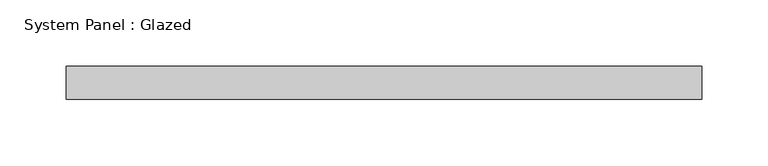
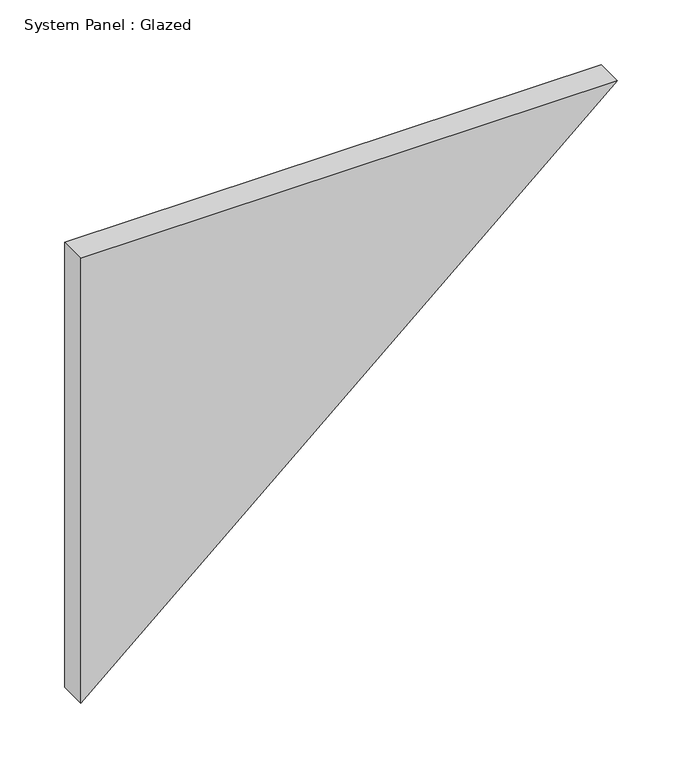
"""IFC4 building model written with IfcOpenShell, lengths in millimetres: plate geometry, System Panel : Glazed."""

from ifc_helpers import new_model, si_unit, frame, origin, place, context, project, spatial, polyline, outline, extrude, source, transform, mapped, element, save


def system_panel_glazed_cdcbd9d5(model_context):
    return source(origin(), model_context, "Body", "SweptSolid", [
        extrude(outline(polyline([(420.7807261, -239.9641856), (0.0, -239.9641856), (420.7807261, 239.9641856), (420.7807261, -239.9641856)])), frame((0.0, 24.5, 0.0), z_axis=(0.0, 1.0, 0.0), x_axis=(0.0, 0.0, 1.0)), (0.0, 0.0, 1.0), 25.0),
    ])


if __name__ == "__main__":
    model = new_model("IFC4")
    model_context = context("Model", 3, world=origin())
    ifc_project = project(units=[si_unit("LENGTHUNIT", "METRE", prefix="MILLI")], contexts=[model_context])
    site = spatial("IfcSite", under=ifc_project)
    building = spatial("IfcBuilding", under=site)
    placement = place(None, origin())
    system_panel_glazed_shape = system_panel_glazed_cdcbd9d5(model_context)
    element("IfcPlate", 1, ObjectType="System Panel : Glazed", at=placement, inside=building, context=model_context, shape_type="MappedRepresentation", body=[
        mapped(system_panel_glazed_shape, transform((0.0, 0.0, 0.0), x_axis=(1.0, 0.0, 0.0), y_axis=(0.0, 1.0, 0.0), z_axis=(0.0, 0.0, 1.0))),
    ])
    save(model, "model.ifc")
